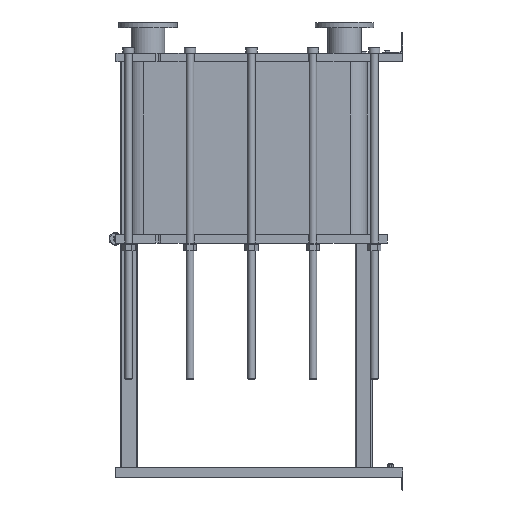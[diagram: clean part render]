
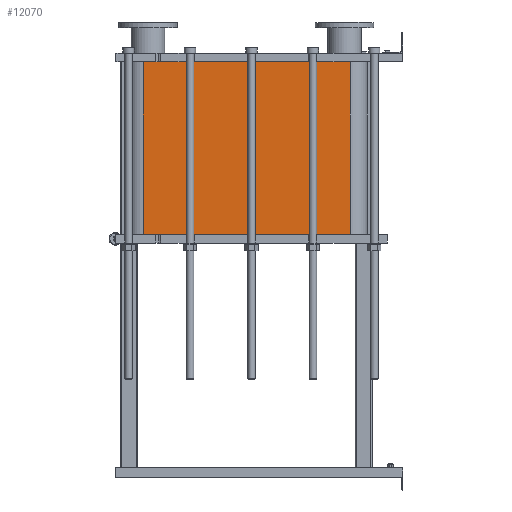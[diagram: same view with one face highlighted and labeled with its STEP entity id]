
A CAD part, left-side view. The second image highlights one B-rep face of the part: STEP entity #12070.
In plain terms, the highlighted planar face has unit normal (-1, 0, 0).
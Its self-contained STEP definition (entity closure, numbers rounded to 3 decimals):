
#1064=LINE('',#21140,#2164);
#1065=LINE('',#21144,#2165);
#1066=LINE('',#21146,#2166);
#1067=LINE('',#21147,#2167);
#2164=VECTOR('',#15790,10.);
#2165=VECTOR('',#15795,10.);
#2166=VECTOR('',#15796,10.);
#2167=VECTOR('',#15797,10.);
#3304=FACE_OUTER_BOUND('',#4091,.T.);
#4091=EDGE_LOOP('',(#9793,#9794,#9795,#9796));
#5677=VERTEX_POINT('',#21137);
#5678=VERTEX_POINT('',#21139);
#5679=VERTEX_POINT('',#21143);
#5680=VERTEX_POINT('',#21145);
#7118=EDGE_CURVE('',#5678,#5677,#1064,.T.);
#7120=EDGE_CURVE('',#5677,#5679,#1065,.T.);
#7121=EDGE_CURVE('',#5680,#5679,#1066,.T.);
#7122=EDGE_CURVE('',#5680,#5678,#1067,.T.);
#9793=ORIENTED_EDGE('',*,*,#7120,.T.);
#9794=ORIENTED_EDGE('',*,*,#7121,.F.);
#9795=ORIENTED_EDGE('',*,*,#7122,.T.);
#9796=ORIENTED_EDGE('',*,*,#7118,.T.);
#11441=PLANE('',#13191);
#12070=ADVANCED_FACE('',(#3304),#11441,.T.);
#13191=AXIS2_PLACEMENT_3D('',#21142,#15793,#15794);
#15790=DIRECTION('',(0.,0.,-1.));
#15793=DIRECTION('center_axis',(-1.,0.,0.));
#15794=DIRECTION('ref_axis',(0.,1.,0.));
#15795=DIRECTION('',(0.,-1.,0.));
#15796=DIRECTION('',(0.,0.,-1.));
#15797=DIRECTION('',(0.,1.,0.));
#21137=CARTESIAN_POINT('',(-248.152,1243.818,-828.));
#21139=CARTESIAN_POINT('',(-248.152,1243.818,0.));
#21140=CARTESIAN_POINT('',(-248.152,1243.818,0.));
#21142=CARTESIAN_POINT('Origin',(-248.152,251.818,0.));
#21143=CARTESIAN_POINT('',(-248.152,251.818,-828.));
#21144=CARTESIAN_POINT('',(-248.152,499.818,-828.));
#21145=CARTESIAN_POINT('',(-248.152,251.818,0.));
#21146=CARTESIAN_POINT('',(-248.152,251.818,0.));
#21147=CARTESIAN_POINT('',(-248.152,251.818,0.));
